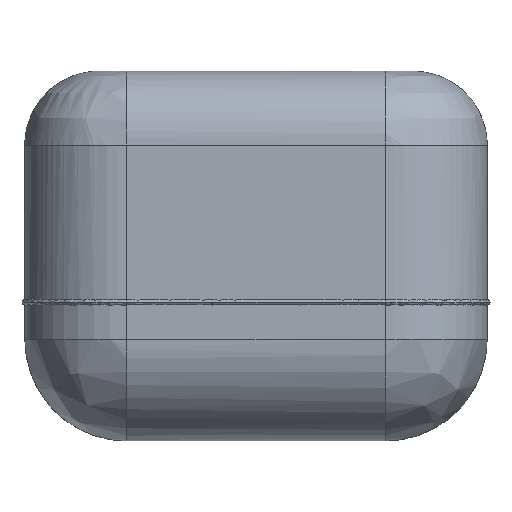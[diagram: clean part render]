
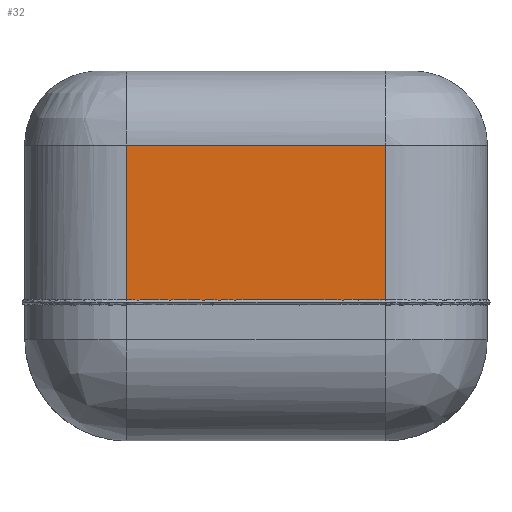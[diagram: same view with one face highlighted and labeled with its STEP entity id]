
A CAD part, left-side view. The second image highlights one B-rep face of the part: STEP entity #32.
In plain terms, the highlighted planar face has unit normal (-1, 0, 0).
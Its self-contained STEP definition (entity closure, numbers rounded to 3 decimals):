
#32=ADVANCED_FACE('',(#91),#805,.T.);
#91=FACE_OUTER_BOUND('',#150,.T.);
#150=EDGE_LOOP('',(#240,#241,#242,#243));
#240=ORIENTED_EDGE('',*,*,#457,.T.);
#241=ORIENTED_EDGE('',*,*,#458,.F.);
#242=ORIENTED_EDGE('',*,*,#459,.T.);
#243=ORIENTED_EDGE('',*,*,#460,.T.);
#457=EDGE_CURVE('',#704,#697,#645,.T.);
#458=EDGE_CURVE('',#696,#697,#646,.T.);
#459=EDGE_CURVE('',#696,#705,#647,.T.);
#460=EDGE_CURVE('',#705,#704,#648,.T.);
#645=B_SPLINE_CURVE_WITH_KNOTS('',3,(#1793,#1794,#1795,#1796),
 .UNSPECIFIED.,.F.,.F.,(4,4),(0.,169.9),.UNSPECIFIED.);
#646=B_SPLINE_CURVE_WITH_KNOTS('',3,(#1797,#1798,#1799,#1800,#1801,#1802),
 .UNSPECIFIED.,.F.,.F.,(4,1,1,4),(-280.,-210.,-140.,
0.),.UNSPECIFIED.);
#647=B_SPLINE_CURVE_WITH_KNOTS('',3,(#1803,#1804,#1805,#1806),
 .UNSPECIFIED.,.F.,.F.,(4,4),(0.,169.9),.UNSPECIFIED.);
#648=B_SPLINE_CURVE_WITH_KNOTS('',1,(#1807,#1808),.UNSPECIFIED.,.F.,.F.,
(2,2),(0.,280.),.UNSPECIFIED.);
#696=VERTEX_POINT('',#1227);
#697=VERTEX_POINT('',#1228);
#704=VERTEX_POINT('',#1235);
#705=VERTEX_POINT('',#1236);
#805=PLANE('',#836);
#836=AXIS2_PLACEMENT_3D('',#1191,#851,$);
#851=DIRECTION('',(-1.,0.,0.));
#1191=CARTESIAN_POINT('',(-0.1,418.012,132.998));
#1227=CARTESIAN_POINT('',(-0.1,390.,319.9));
#1228=CARTESIAN_POINT('',(-0.1,110.,319.9));
#1235=CARTESIAN_POINT('',(-0.1,110.,150.));
#1236=CARTESIAN_POINT('',(-0.1,390.,150.));
#1793=CARTESIAN_POINT('',(-0.1,110.,150.));
#1794=CARTESIAN_POINT('',(-0.1,110.,206.633));
#1795=CARTESIAN_POINT('',(-0.1,110.,263.267));
#1796=CARTESIAN_POINT('',(-0.1,110.,319.9));
#1797=CARTESIAN_POINT('',(-0.1,390.,319.9));
#1798=CARTESIAN_POINT('',(-0.1,366.667,319.9));
#1799=CARTESIAN_POINT('',(-0.1,320.,319.9));
#1800=CARTESIAN_POINT('',(-0.1,226.667,319.9));
#1801=CARTESIAN_POINT('',(-0.1,156.667,319.9));
#1802=CARTESIAN_POINT('',(-0.1,110.,319.9));
#1803=CARTESIAN_POINT('',(-0.1,390.,319.9));
#1804=CARTESIAN_POINT('',(-0.1,390.,263.267));
#1805=CARTESIAN_POINT('',(-0.1,390.,206.633));
#1806=CARTESIAN_POINT('',(-0.1,390.,150.));
#1807=CARTESIAN_POINT('',(-0.1,390.,150.));
#1808=CARTESIAN_POINT('',(-0.1,110.,150.));
